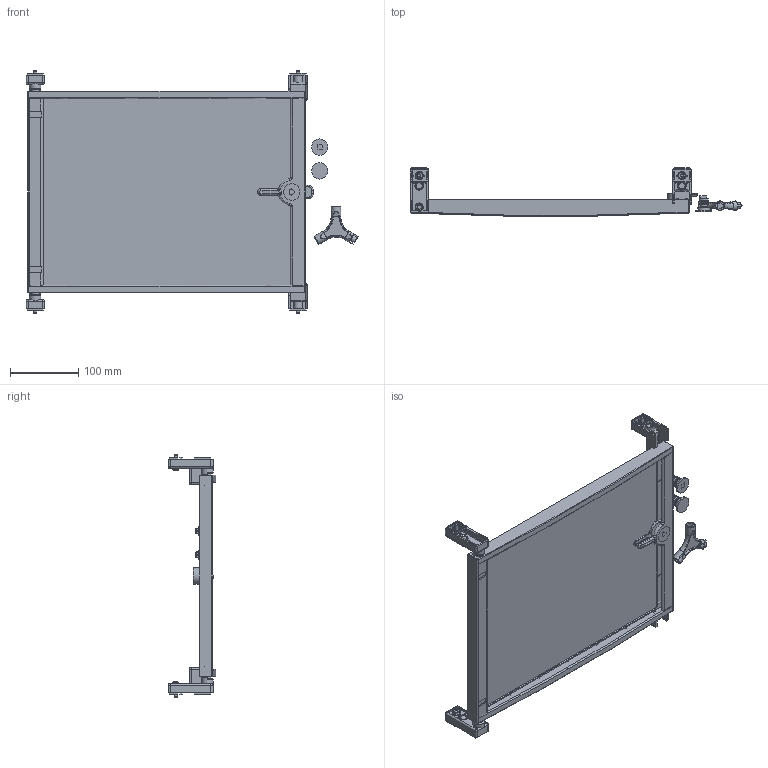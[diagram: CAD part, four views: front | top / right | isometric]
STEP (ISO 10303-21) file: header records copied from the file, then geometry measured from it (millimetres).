
FILE_DESCRIPTION(/* description */ (''),/* implementation_level */ '2;1');
FILE_NAME(/* name */ '4005038.stp',/* time_stamp */ '2016-09-26T10:35:19+02:00',/* author */ (''),/* organization */ (''),/* preprocessor_version */ 'ST-DEVELOPER v16',/* originating_system */ 'SIEMENS PLM Software NX 11.0',/* authorisation */ '');
FILE_SCHEMA (('AUTOMOTIVE_DESIGN { 1 0 10303 214 3 1 1 1 }'));
Length unit declared in the file: millimetre
Products named in the file (1): 4005038_LINKEDEXT_jt
Bounding box: 487.76 x 70.25 x 356.5 mm (x, y, z)
Surface area: 430495.5 mm2 (no closed solid volume)
Topology: 0 solids, 339 shells, 729 faces, 3156 edges, 2732 vertices
Faces by surface type: plane 428, cylinder 156, torus 60, bspline 44, cone 26, sphere 15
Full cylindrical faces by diameter (mm): 5 x4, 6 x1, 9.9 x2, 12 x2, 13.7 x3, 14 x3, 17 x2, 17.9 x2, 24 x2
Entity records: 41524 total; most frequent: CARTESIAN_POINT 9822, DIRECTION 5031, ORIENTED_EDGE 3702, EDGE_CURVE 3073, VERTEX_POINT 2708, LINE 2059, VECTOR 2059, AXIS2_PLACEMENT_3D 1486
